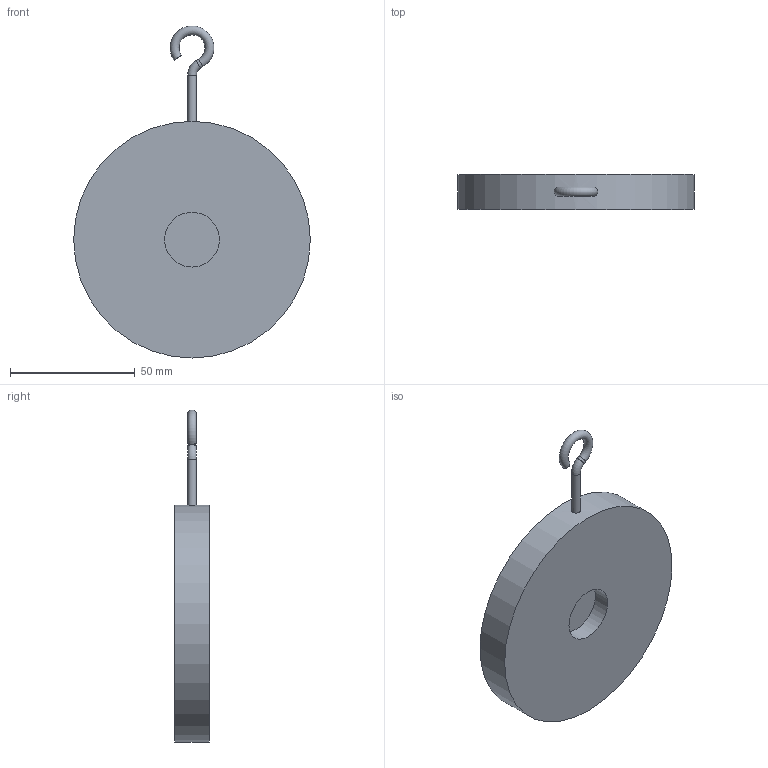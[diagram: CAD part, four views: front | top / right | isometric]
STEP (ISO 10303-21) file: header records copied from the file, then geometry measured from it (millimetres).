
FILE_DESCRIPTION(('STEP AP203'), '1');
FILE_NAME('孰囡囗 钺疣蝽 钿眍耱忸瘅囹 戾骠豚眦邂 008C.Y DN40', '', ('UNSPECIFIED'), ('UNSPECIFIED'), 'ASCON STEP Converter 1.6', 'ASCON Math Kernel', '');
FILE_SCHEMA(('CONFIG_CONTROL_DESIGN'));
Length unit declared in the file: millimetre
Bounding box: 95 x 14 x 133.29 mm (x, y, z)
Volume: 90727.3 mm3; surface area: 20827.3 mm2
Topology: 1 solids, 1 shells, 32 faces, 72 edges, 47 vertices
Faces by surface type: plane 17, cylinder 12, torus 2, cone 1
Full cylindrical faces by diameter (mm): 3.6 x2, 22 x1, 95 x1
Entity records: 1366 total; most frequent: CARTESIAN_POINT 367, DIRECTION 152, ORIENTED_EDGE 130, EDGE_CURVE 65, AXIS2_PLACEMENT_3D 59, VERTEX_POINT 47, EDGE_LOOP 44, LINE 34
